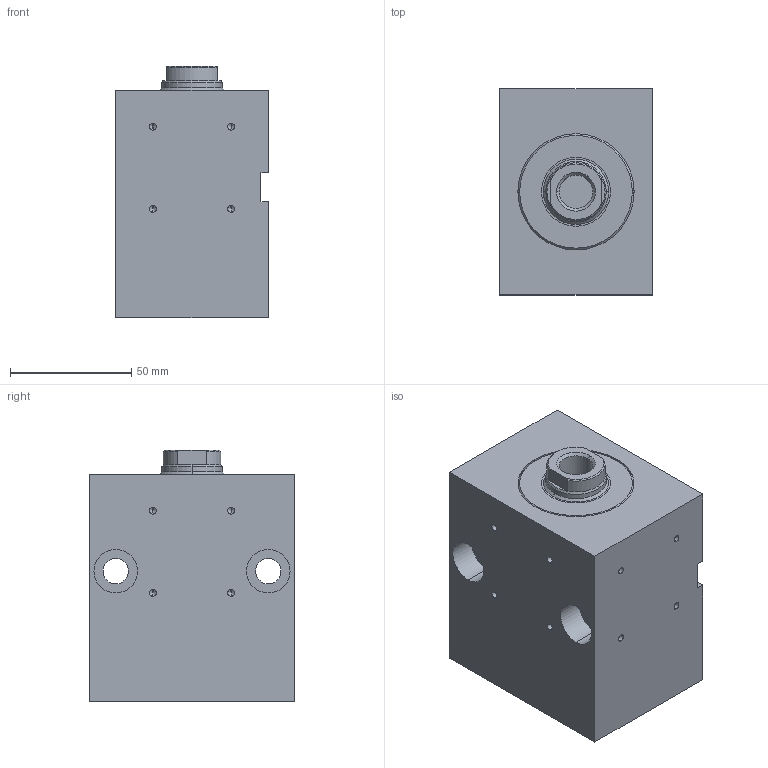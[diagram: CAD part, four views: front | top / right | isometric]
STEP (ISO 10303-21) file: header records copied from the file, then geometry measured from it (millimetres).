
FILE_DESCRIPTION (( 'STEP AP203' ), '1' );
FILE_NAME ('BZ_500.40_25.33.201.040 PP.NS40__DH_0_.STEP', '2022-05-27T08:47:55', ( '' ), ( '' ), 'SwSTEP 2.0', 'SolidWorks 2020', '' );
FILE_SCHEMA (( 'CONFIG_CONTROL_DESIGN' ));
Length unit declared in the file: millimetre
Products named in the file (7): BZ_500.40_25.33.201.040 PP.NS40__DH_0_; _Gehaeuse f. BZ500.40_25.33.201.40.N1.m (m = Nut spiegelbildlich40)Nut rechts, Senkungen links00(140frei1330220))7^BZ_500.40_25.33.201.040 PP.NS40__DH_0_(2)_BZ_500.40_25.33.201.040 PP.NS40__DH_~; _Kolbenstange komplett f. BZ_RZ_FZ.40_25.xx.201.40(0_11 1 16 2 0 0 10 25 0 0 0)0^BZ_500.40_25.33.201.040 PP.NS40__DH_0_(2)_BZ_500.40_25.33.201.040 PP.NS40__DH_0_; _Dichtungssatz f. BZ_RZ_FZ.40_25.xx.201.40 Artikelnr._ 013543(0)^BZ_500.40_25.33.201.040 PP.NS40__DH_0_(2)_BZ_500.40_25.33.201.040 PP.NS40__DH_0_; BZ_500.40_25.33.201.040 PP.NS40__DH_0_(2)^BZ_500.40_25.33.201.040 PP.NS40__DH_0_; _O-Ring 9x2 - Art. 104351^BZ_500.40_25.33.201.040 PP.NS40__DH_0_(2)_BZ_500.40_25.33.201.040 PP.NS40__DH_0_; _Verschraubung komplett mit Dichtung f. BZ_RZ_FZ.40_25.201, Art.-Nr._ 041752(201)^BZ_500.40_25.33.201.040 PP.NS40__DH_0_(2)_BZ_500.40_25.33.201.040 PP.NS40__DH_0_
Assembly tree (7 placements, depth 3):
  BZ_500.40_25.33.201.040 PP.NS40__DH_0_
    BZ_500.40_25.33.201.040 PP.NS40__DH_0_(2)^BZ_500.40_25.33.201.040 PP.NS40__DH_0_
      _Gehaeuse f. BZ500.40_25.33.201.40.N1.m (m = Nut spiegelbildlich40)Nut rechts, Senkungen links00(140frei1330220))7^BZ_500.40_25.33.201.040 PP.NS40__DH_0_(2)_BZ_500.40_25.33.201.040 PP.NS40__DH_~
      _Verschraubung komplett mit Dichtung f. BZ_RZ_FZ.40_25.201, Art.-Nr._ 041752(201)^BZ_500.40_25.33.201.040 PP.NS40__DH_0_(2)_BZ_500.40_25.33.201.040 PP.NS40__DH_0_
      _Dichtungssatz f. BZ_RZ_FZ.40_25.xx.201.40 Artikelnr._ 013543(0)^BZ_500.40_25.33.201.040 PP.NS40__DH_0_(2)_BZ_500.40_25.33.201.040 PP.NS40__DH_0_
      _Kolbenstange komplett f. BZ_RZ_FZ.40_25.xx.201.40(0_11 1 16 2 0 0 10 25 0 0 0)0^BZ_500.40_25.33.201.040 PP.NS40__DH_0_(2)_BZ_500.40_25.33.201.040 PP.NS40__DH_0_
      _O-Ring 9x2 - Art. 104351^BZ_500.40_25.33.201.040 PP.NS40__DH_0_(2)_BZ_500.40_25.33.201.040 PP.NS40__DH_0_  x2
Bounding box: 63 x 85 x 104 mm (x, y, z)
Volume: 453953.5 mm3; surface area: 78486 mm2
Topology: 6 solids, 6 shells, 154 faces, 353 edges, 209 vertices
Faces by surface type: cylinder 70, plane 38, cone 34, torus 12
Entity records: 4834 total; most frequent: DIRECTION 783, CARTESIAN_POINT 727, ORIENTED_EDGE 626, AXIS2_PLACEMENT_3D 323, EDGE_CURVE 313, VERTEX_POINT 199, EDGE_LOOP 182, CIRCLE 166
